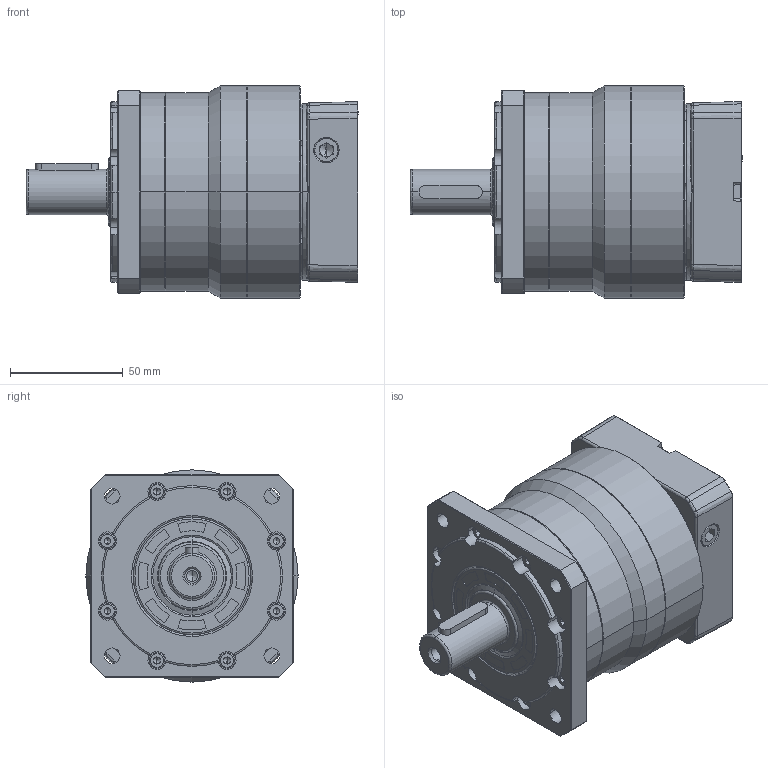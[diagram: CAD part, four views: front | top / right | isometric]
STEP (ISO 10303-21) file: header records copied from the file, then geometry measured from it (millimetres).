
FILE_DESCRIPTION (( 'STEP AP214' ), '1' );
FILE_NAME ('FB080-L1-S2-P2 19-70-90-M5.STEP', '2021-04-23T06:55:29', ( 'Microsoft' ), ( 'Microsoft China' ), 'SwSTEP 2.0', 'SolidWorks 2016', '' );
FILE_SCHEMA (( 'AUTOMOTIVE_DESIGN' ));
Length unit declared in the file: millimetre
Products named in the file (16): 输入轴锁紧环 23-52-14; 输入轴FB090D-19; 输入法兰FB090-70; 输入端壳体FB090D; 怀堤俴陎殤FB090-20粣; FB080怀堤傷褲极; FB080内齿圈; A倰す瑩 6-28; FB080-L1-S2-P2 19-70-90-M5; curved single coil spring lock washers gb_GB_FASTENER_WASHER_CSLW 4; hexagon socket head cap screws gb_GB_FASTENER_SCREWS_HSHCS M4X20-N; hex socket set screws with flat point gb_GB_FASTENER_SCREWS_HSFP M12X12-N; hexagon socket head cap screws gb_GB_FASTENER_SCREWS_HSHCS M6X20-N; curved single coil spring lock washers gb_GB_FASTENER_WASHER_CSLW 5; hexagon socket head cap screws gb_GB_FASTENER_SCREWS_HSHCS M5X20-N; 蚐猾30526
Assembly tree (39 placements, depth 2):
  FB080-L1-S2-P2 19-70-90-M5
    A倰す瑩 6-28
    FB080内齿圈
    FB080怀堤傷褲极
    怀堤俴陎殤FB090-20粣
    输入端壳体FB090D
    输入法兰FB090-70
    输入轴FB090D-19
    输入轴锁紧环 23-52-14
    蚐猾30526
    hexagon socket head cap screws gb_GB_FASTENER_SCREWS_HSHCS M5X20-N  x6
    curved single coil spring lock washers gb_GB_FASTENER_WASHER_CSLW 5  x6
    hexagon socket head cap screws gb_GB_FASTENER_SCREWS_HSHCS M6X20-N
    hex socket set screws with flat point gb_GB_FASTENER_SCREWS_HSFP M12X12-N
    hexagon socket head cap screws gb_GB_FASTENER_SCREWS_HSHCS M4X20-N  x8
    curved single coil spring lock washers gb_GB_FASTENER_WASHER_CSLW 4  x8
Bounding box: 147 x 94 x 94 mm (x, y, z)
Volume: 570232.5 mm3; surface area: 132351.2 mm2
Topology: 39 solids, 39 shells, 1596 faces, 4002 edges, 2532 vertices
Faces by surface type: plane 703, cylinder 338, bspline 264, cone 212, torus 79
Entity records: 57909 total; most frequent: CARTESIAN_POINT 17134, ORIENTED_EDGE 6020, DIRECTION 5065, EDGE_CURVE 3010, VERTEX_POINT 1930, AXIS2_PLACEMENT_3D 1798, LINE 1469, VECTOR 1469
